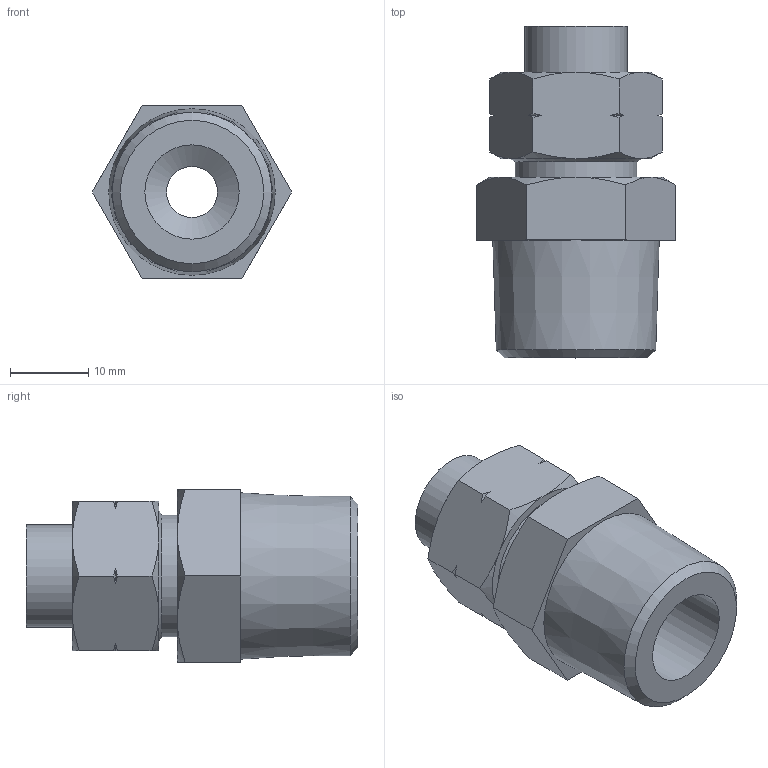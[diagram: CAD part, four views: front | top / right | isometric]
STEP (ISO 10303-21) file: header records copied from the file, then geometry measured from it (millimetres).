
FILE_DESCRIPTION((''),'2;1');
FILE_NAME('D:\INVENTOR\[New Inventor]\CDC Products 3D Ass''y\Two-Touch Fittings\Metric\CC\CC12-8--04.stp','2009-02-25T17:33:12',('Microsoft'),(''),'Autodesk Inventor 2008','Autodesk Inventor 2008','');
FILE_SCHEMA(('AUTOMOTIVE_DESIGN { 1 0 10303 214 1 1 1 1 }'));
Length unit declared in the file: millimetre
Products named in the file (1): CC12-8--04
Bounding box: 25.4 x 42.27 x 22 mm (x, y, z)
Volume: 8673.5 mm3; surface area: 5548.2 mm2
Topology: 1 solids, 1 shells, 61 faces, 136 edges, 83 vertices
Faces by surface type: cone 33, plane 20, cylinder 5, bspline 2, torus 1
Full cylindrical faces by diameter (mm): 6.5 x1, 7.7 x1, 12.2 x1, 13 x1, 15.5 x1
Entity records: 1608 total; most frequent: CARTESIAN_POINT 424, ORIENTED_EDGE 250, DIRECTION 226, EDGE_CURVE 125, AXIS2_PLACEMENT_3D 101, VERTEX_POINT 83, EDGE_LOOP 80, FACE_OUTER_BOUND 61
